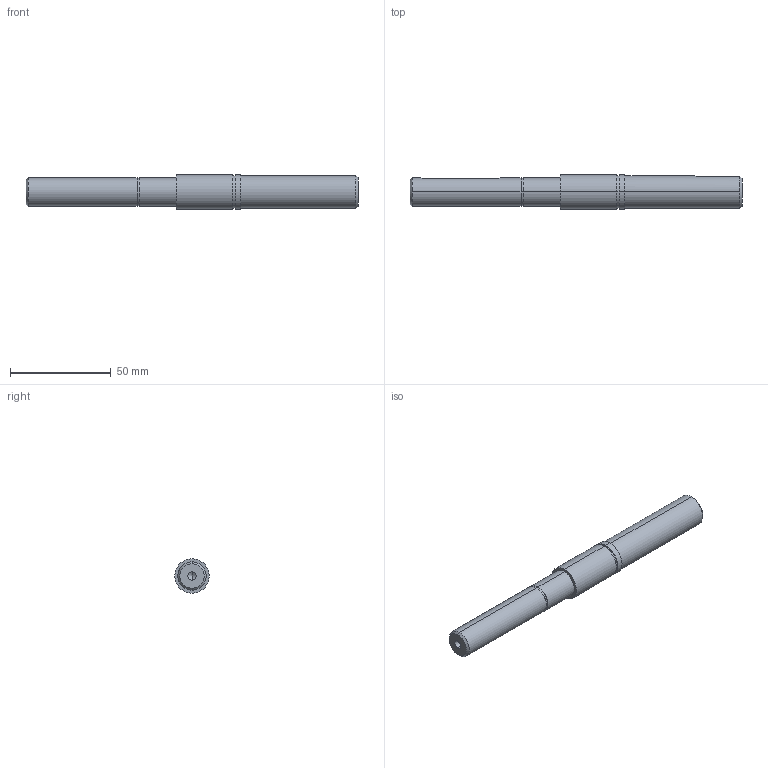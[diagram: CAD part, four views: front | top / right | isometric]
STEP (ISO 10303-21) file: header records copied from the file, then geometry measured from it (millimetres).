
FILE_DESCRIPTION (( 'STEP AP203' ), '1' );
FILE_NAME ('084.811.001.STEP', '2013-01-29T12:57:22', ( 'Alusic' ), ( 'Alusic' ), 'SwSTEP 2.0', 'SolidWorks 2011', '' );
FILE_SCHEMA (( 'CONFIG_CONTROL_DESIGN' ));
Length unit declared in the file: millimetre
Products named in the file (1): 084.811.001
Bounding box: 164.5 x 17 x 17 mm (x, y, z)
Volume: 29249.7 mm3; surface area: 8856.9 mm2
Topology: 1 solids, 1 shells, 40 faces, 87 edges, 55 vertices
Faces by surface type: cylinder 19, plane 14, cone 7
Entity records: 1256 total; most frequent: CARTESIAN_POINT 280, DIRECTION 203, ORIENTED_EDGE 170, EDGE_CURVE 85, AXIS2_PLACEMENT_3D 82, VERTEX_POINT 55, EDGE_LOOP 48, CIRCLE 41
